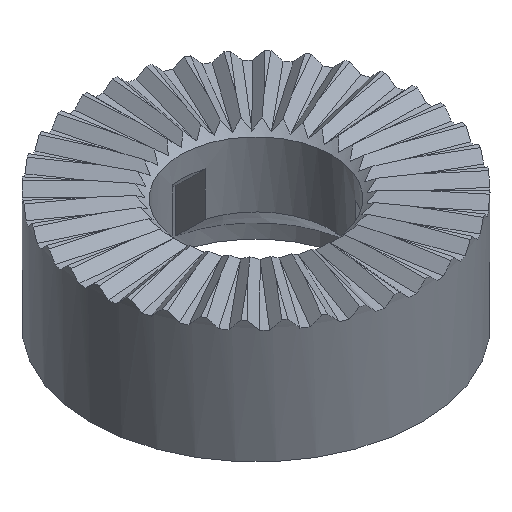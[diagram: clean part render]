
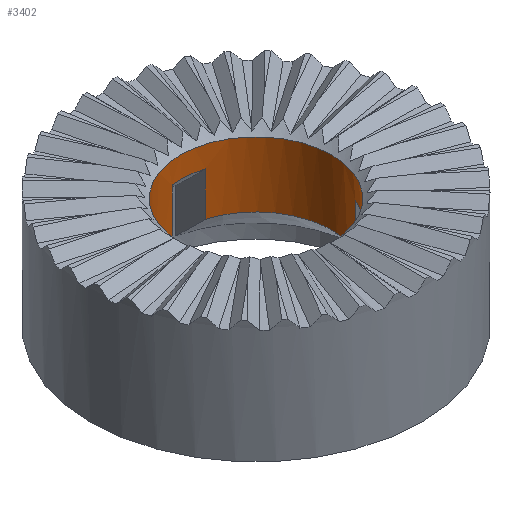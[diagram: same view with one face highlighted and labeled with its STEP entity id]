
A CAD part, isometric view. The second image highlights one B-rep face of the part: STEP entity #3402.
In plain terms, the highlighted cylindrical face has radius 16 mm (diameter 32 mm), a full revolution.
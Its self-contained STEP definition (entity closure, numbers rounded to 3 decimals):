
#16=CYLINDRICAL_SURFACE('',#3650,16.);
#364=LINE('',#5799,#596);
#371=LINE('',#5838,#603);
#372=LINE('',#5854,#604);
#373=LINE('',#5857,#605);
#374=LINE('',#5863,#606);
#375=LINE('',#5869,#607);
#376=LINE('',#5879,#608);
#596=VECTOR('',#4261,10.);
#603=VECTOR('',#4288,10.);
#604=VECTOR('',#4295,10.);
#605=VECTOR('',#4298,10.);
#606=VECTOR('',#4301,10.);
#607=VECTOR('',#4304,10.);
#608=VECTOR('',#4315,16.);
#790=FACE_OUTER_BOUND('',#952,.T.);
#952=EDGE_LOOP('',(#2674,#2675,#2676,#2677,#2678,#2679,#2680,#2681,#2682,
#2683,#2684,#2685,#2686,#2687,#2688,#2689,#2690));
#1047=CIRCLE('',#3590,16.);
#1048=CIRCLE('',#3591,16.);
#1050=CIRCLE('',#3628,16.);
#1057=CIRCLE('',#3638,16.);
#1058=CIRCLE('',#3641,16.);
#1059=CIRCLE('',#3647,16.);
#1060=CIRCLE('',#3649,16.);
#1061=CIRCLE('',#3651,16.);
#1062=CIRCLE('',#3652,16.);
#1427=VERTEX_POINT('',#5669);
#1428=VERTEX_POINT('',#5671);
#1464=VERTEX_POINT('',#5781);
#1466=VERTEX_POINT('',#5787);
#1468=VERTEX_POINT('',#5795);
#1479=VERTEX_POINT('',#5824);
#1480=VERTEX_POINT('',#5828);
#1481=VERTEX_POINT('',#5834);
#1482=VERTEX_POINT('',#5840);
#1483=VERTEX_POINT('',#5844);
#1484=VERTEX_POINT('',#5850);
#1485=VERTEX_POINT('',#5856);
#1486=VERTEX_POINT('',#5862);
#1487=VERTEX_POINT('',#5868);
#1488=VERTEX_POINT('',#5878);
#1858=EDGE_CURVE('',#1428,#1427,#1047,.T.);
#1859=EDGE_CURVE('',#1427,#1428,#1048,.T.);
#1915=EDGE_CURVE('',#1464,#1466,#1050,.T.);
#1918=EDGE_CURVE('',#1466,#1468,#364,.T.);
#1933=EDGE_CURVE('',#1479,#1480,#1057,.T.);
#1935=EDGE_CURVE('',#1480,#1481,#371,.T.);
#1938=EDGE_CURVE('',#1482,#1483,#1058,.T.);
#1940=EDGE_CURVE('',#1483,#1484,#372,.T.);
#1941=EDGE_CURVE('',#1485,#1464,#373,.T.);
#1943=EDGE_CURVE('',#1486,#1479,#374,.T.);
#1945=EDGE_CURVE('',#1487,#1482,#375,.T.);
#1947=EDGE_CURVE('',#1487,#1468,#1059,.T.);
#1948=EDGE_CURVE('',#1486,#1484,#1060,.T.);
#1949=EDGE_CURVE('',#1428,#1488,#376,.T.);
#1950=EDGE_CURVE('',#1485,#1488,#1061,.T.);
#1951=EDGE_CURVE('',#1488,#1481,#1062,.T.);
#2674=ORIENTED_EDGE('',*,*,#1858,.T.);
#2675=ORIENTED_EDGE('',*,*,#1859,.T.);
#2676=ORIENTED_EDGE('',*,*,#1949,.T.);
#2677=ORIENTED_EDGE('',*,*,#1950,.F.);
#2678=ORIENTED_EDGE('',*,*,#1941,.T.);
#2679=ORIENTED_EDGE('',*,*,#1915,.T.);
#2680=ORIENTED_EDGE('',*,*,#1918,.T.);
#2681=ORIENTED_EDGE('',*,*,#1947,.F.);
#2682=ORIENTED_EDGE('',*,*,#1945,.T.);
#2683=ORIENTED_EDGE('',*,*,#1938,.T.);
#2684=ORIENTED_EDGE('',*,*,#1940,.T.);
#2685=ORIENTED_EDGE('',*,*,#1948,.F.);
#2686=ORIENTED_EDGE('',*,*,#1943,.T.);
#2687=ORIENTED_EDGE('',*,*,#1933,.T.);
#2688=ORIENTED_EDGE('',*,*,#1935,.T.);
#2689=ORIENTED_EDGE('',*,*,#1951,.F.);
#2690=ORIENTED_EDGE('',*,*,#1949,.F.);
#3402=ADVANCED_FACE('',(#790),#16,.F.);
#3590=AXIS2_PLACEMENT_3D('',#5672,#4146,#4147);
#3591=AXIS2_PLACEMENT_3D('',#5673,#4148,#4149);
#3628=AXIS2_PLACEMENT_3D('',#5791,#4256,#4257);
#3638=AXIS2_PLACEMENT_3D('',#5832,#4284,#4285);
#3641=AXIS2_PLACEMENT_3D('',#5848,#4291,#4292);
#3647=AXIS2_PLACEMENT_3D('',#5874,#4307,#4308);
#3649=AXIS2_PLACEMENT_3D('',#5876,#4311,#4312);
#3650=AXIS2_PLACEMENT_3D('',#5877,#4313,#4314);
#3651=AXIS2_PLACEMENT_3D('',#5880,#4316,#4317);
#3652=AXIS2_PLACEMENT_3D('',#5881,#4318,#4319);
#4146=DIRECTION('center_axis',(0.,0.,
1.));
#4147=DIRECTION('ref_axis',(1.,0.,0.));
#4148=DIRECTION('center_axis',(0.,0.,
1.));
#4149=DIRECTION('ref_axis',(1.,0.,0.));
#4256=DIRECTION('center_axis',(0.,0.,
-1.));
#4257=DIRECTION('ref_axis',(1.,0.,0.));
#4261=DIRECTION('',(0.,0.,-1.));
#4284=DIRECTION('center_axis',(0.,0.,
-1.));
#4285=DIRECTION('ref_axis',(1.,0.,0.));
#4288=DIRECTION('',(0.,0.,-1.));
#4291=DIRECTION('center_axis',(0.,0.,
-1.));
#4292=DIRECTION('ref_axis',(1.,0.,0.));
#4295=DIRECTION('',(0.,0.,-1.));
#4298=DIRECTION('',(0.,0.,1.));
#4301=DIRECTION('',(0.,0.,1.));
#4304=DIRECTION('',(0.,0.,1.));
#4307=DIRECTION('center_axis',(0.,0.,
1.));
#4308=DIRECTION('ref_axis',(1.,0.,0.));
#4311=DIRECTION('center_axis',(0.,0.,
1.));
#4312=DIRECTION('ref_axis',(1.,0.,0.));
#4313=DIRECTION('center_axis',(0.,0.,
-1.));
#4314=DIRECTION('ref_axis',(1.,0.,0.));
#4315=DIRECTION('',(0.,0.,-1.));
#4316=DIRECTION('center_axis',(0.,0.,
1.));
#4317=DIRECTION('ref_axis',(1.,0.,0.));
#4318=DIRECTION('center_axis',(0.,0.,
1.));
#4319=DIRECTION('ref_axis',(1.,0.,0.));
#5669=CARTESIAN_POINT('',(160.321,143.348,-1.5));
#5671=CARTESIAN_POINT('',(128.321,143.348,-1.5));
#5672=CARTESIAN_POINT('Origin',(144.321,143.348,-1.5));
#5673=CARTESIAN_POINT('Origin',(144.321,143.348,-1.5));
#5781=CARTESIAN_POINT('',(142.449,159.238,-6.));
#5787=CARTESIAN_POINT('',(148.924,158.671,-6.));
#5791=CARTESIAN_POINT('Origin',(144.321,143.348,-6.));
#5795=CARTESIAN_POINT('',(148.924,158.671,-15.25));
#5799=CARTESIAN_POINT('',(148.924,158.671,0.));
#5824=CARTESIAN_POINT('',(131.496,133.781,-6.));
#5828=CARTESIAN_POINT('',(128.749,139.672,-6.));
#5832=CARTESIAN_POINT('Origin',(144.321,143.348,-6.));
#5834=CARTESIAN_POINT('',(128.749,139.672,-15.25));
#5838=CARTESIAN_POINT('',(128.749,139.672,0.));
#5840=CARTESIAN_POINT('',(159.018,137.024,-6.));
#5844=CARTESIAN_POINT('',(155.29,131.7,-6.));
#5848=CARTESIAN_POINT('Origin',(144.321,143.348,-6.));
#5850=CARTESIAN_POINT('',(155.29,131.7,-15.25));
#5854=CARTESIAN_POINT('',(155.29,131.7,0.));
#5856=CARTESIAN_POINT('',(142.449,159.238,-15.25));
#5857=CARTESIAN_POINT('',(142.449,159.238,0.));
#5862=CARTESIAN_POINT('',(131.496,133.781,-15.25));
#5863=CARTESIAN_POINT('',(131.496,133.781,0.));
#5868=CARTESIAN_POINT('',(159.018,137.024,-15.25));
#5869=CARTESIAN_POINT('',(159.018,137.024,0.));
#5874=CARTESIAN_POINT('Origin',(144.321,143.348,-15.25));
#5876=CARTESIAN_POINT('Origin',(144.321,143.348,-15.25));
#5877=CARTESIAN_POINT('Origin',(144.321,143.348,0.));
#5878=CARTESIAN_POINT('',(128.321,143.348,-15.25));
#5879=CARTESIAN_POINT('',(128.321,143.348,0.));
#5880=CARTESIAN_POINT('Origin',(144.321,143.348,-15.25));
#5881=CARTESIAN_POINT('Origin',(144.321,143.348,-15.25));
